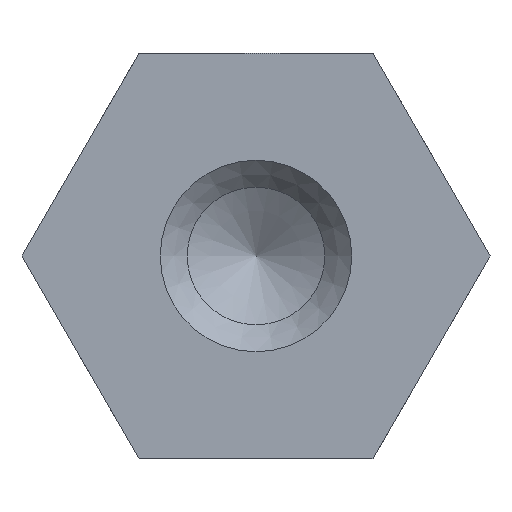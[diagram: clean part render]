
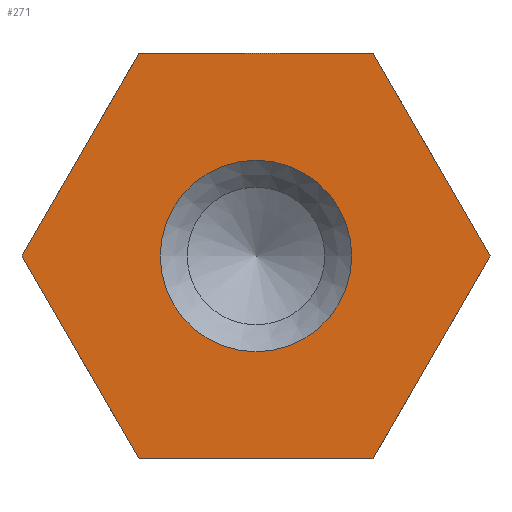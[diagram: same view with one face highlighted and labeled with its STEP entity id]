
A CAD part, left-side view. The second image highlights one B-rep face of the part: STEP entity #271.
In plain terms, the highlighted planar face has unit normal (-1, 0, 0).
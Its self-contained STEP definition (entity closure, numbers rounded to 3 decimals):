
#14=LINE($,#422,#26);
#17=LINE($,#431,#29);
#19=LINE($,#439,#31);
#21=LINE($,#447,#33);
#23=LINE($,#455,#35);
#24=LINE($,#457,#36);
#26=VECTOR($,#338,3.666);
#29=VECTOR($,#343,3.666);
#31=VECTOR($,#347,3.666);
#33=VECTOR($,#351,3.666);
#35=VECTOR($,#355,3.666);
#36=VECTOR($,#358,3.666);
#48=PLANE($,#298);
#62=FACE_BOUND($,#104,.T.);
#63=FACE_BOUND($,#105,.T.);
#104=EDGE_LOOP($,(#222));
#105=EDGE_LOOP($,(#223,#224,#225,#226,#227,#228));
#129=CIRCLE($,#290,1.5);
#142=VERTEX_POINT($,#408);
#146=VERTEX_POINT($,#419);
#147=VERTEX_POINT($,#421);
#149=VERTEX_POINT($,#429);
#151=VERTEX_POINT($,#437);
#153=VERTEX_POINT($,#445);
#155=VERTEX_POINT($,#453);
#167=EDGE_CURVE($,#142,#142,#129,.T.);
#171=EDGE_CURVE($,#147,#146,#14,.T.);
#175=EDGE_CURVE($,#146,#149,#17,.T.);
#178=EDGE_CURVE($,#149,#151,#19,.T.);
#181=EDGE_CURVE($,#151,#153,#21,.T.);
#184=EDGE_CURVE($,#153,#155,#23,.T.);
#185=EDGE_CURVE($,#155,#147,#24,.T.);
#222=ORIENTED_EDGE($,*,*,#167,.T.);
#223=ORIENTED_EDGE($,*,*,#171,.T.);
#224=ORIENTED_EDGE($,*,*,#175,.T.);
#225=ORIENTED_EDGE($,*,*,#178,.T.);
#226=ORIENTED_EDGE($,*,*,#181,.T.);
#227=ORIENTED_EDGE($,*,*,#184,.T.);
#228=ORIENTED_EDGE($,*,*,#185,.T.);
#271=ADVANCED_FACE($,(#62,#63),#48,.T.);
#290=AXIS2_PLACEMENT_3D($,#409,#329,#330);
#298=AXIS2_PLACEMENT_3D($,#456,#356,#357);
#329=DIRECTION('center_axis',(1.,0.,0.));
#330=DIRECTION('ref_axis',(0.,-1.,0.));
#338=DIRECTION($,(0.,0.5,-0.866));
#343=DIRECTION($,(0.,-0.5,-0.866));
#347=DIRECTION($,(0.,-1.,0.));
#351=DIRECTION($,(0.,-0.5,0.866));
#355=DIRECTION($,(0.,0.5,0.866));
#356=DIRECTION('center_axis',(-1.,0.,0.));
#357=DIRECTION('ref_axis',(0.,0.,1.));
#358=DIRECTION($,(0.,1.,0.));
#408=CARTESIAN_POINT('',(0.,-1.5,0.));
#409=CARTESIAN_POINT('Origin',(0.,0.,
0.));
#419=CARTESIAN_POINT('',(0.,3.666,0.));
#421=CARTESIAN_POINT('',(0.,1.833,3.175));
#422=CARTESIAN_POINT($,(0.,3.093,0.993));
#429=CARTESIAN_POINT('',(0.,1.833,-3.175));
#431=CARTESIAN_POINT($,(0.,2.991,-1.17));
#437=CARTESIAN_POINT('',(0.,-1.833,-3.175));
#439=CARTESIAN_POINT($,(0.,1.066,-3.175));
#445=CARTESIAN_POINT('',(0.,-3.666,0.));
#447=CARTESIAN_POINT($,(0.,-2.509,-2.005));
#453=CARTESIAN_POINT('',(0.,-1.833,3.175));
#455=CARTESIAN_POINT($,(0.,-2.407,2.182));
#456=CARTESIAN_POINT('Origin',(0.,2.337,
0.));
#457=CARTESIAN_POINT($,(0.,1.27,3.175));
